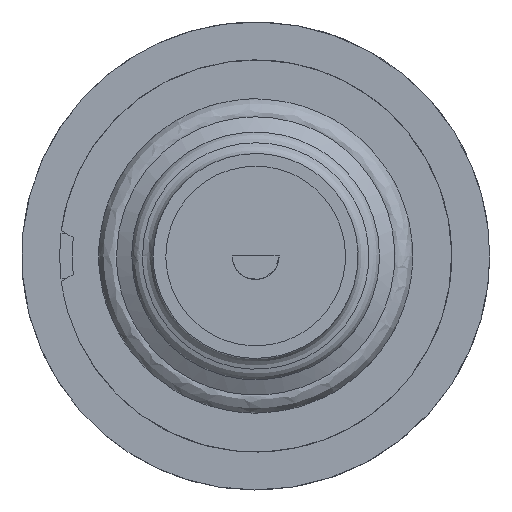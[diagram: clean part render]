
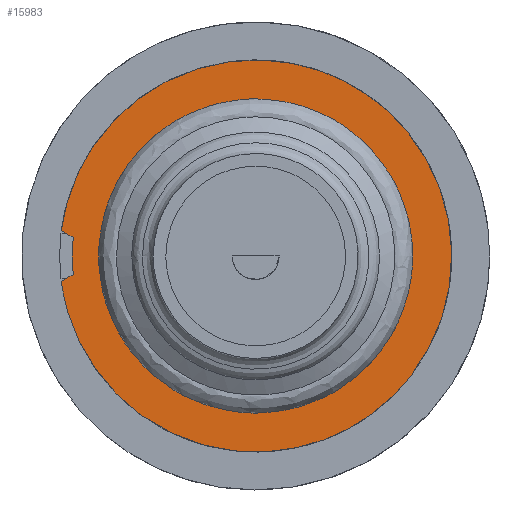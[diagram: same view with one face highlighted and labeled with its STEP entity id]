
A CAD part, front view. The second image highlights one B-rep face of the part: STEP entity #15983.
In plain terms, the highlighted free-form (B-spline) face has degree [1, 1] with [2, 2] control points.
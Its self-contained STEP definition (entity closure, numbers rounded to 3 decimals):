
#15793=CARTESIAN_POINT('V5',(-15.37,-5.0,2.0));
#15794=VERTEX_POINT('V5',#15793);
#15800=CARTESIAN_POINT('V4',(-15.37,-5.0,-2.0));
#15801=VERTEX_POINT('V4',#15800);
#15802=CARTESIAN_POINT('E4',(-15.37,-5.0,2.0));
#15803=CARTESIAN_POINT('E4',(-12.372,-5.0,
   25.041));
#15804=CARTESIAN_POINT('E4',(7.75,-5.0,
   13.423));
#15805=CARTESIAN_POINT('E4',(31.0,-5.0,0.));
#15806=CARTESIAN_POINT('E4',(7.75,-5.0,
   -13.423));
#15807=CARTESIAN_POINT('E4',(-12.372,-5.0,
   -25.041));
#15808=CARTESIAN_POINT('E4',(-15.37,-5.0,-2.0));
#15816=(BOUNDED_CURVE()B_SPLINE_CURVE(2,(#15802,#15803,#15804,
   #15805,#15806,#15807,#15808),.CIRCULAR_ARC.,.F.,.U.)
   B_SPLINE_CURVE_WITH_KNOTS((3,2,2,3),(1.291,
   17.898,35.796,52.403),
   .UNSPECIFIED.)CURVE()GEOMETRIC_REPRESENTATION_ITEM()
   RATIONAL_B_SPLINE_CURVE((0.933,0.536,
   1.0,0.5,1.0,0.536,0.933))
   REPRESENTATION_ITEM('E4'));
#15817=EDGE_CURVE('E4',#15794,#15801,#15816,.T.);
#15843=CARTESIAN_POINT('V3',(-14.427,-5.0,
   -1.455));
#15844=VERTEX_POINT('V3',#15843);
#15852=CARTESIAN_POINT('V6',(-14.427,-5.0,
   1.455));
#15853=VERTEX_POINT('V6',#15852);
#15854=CARTESIAN_POINT('E6',(-14.427,-5.0,
   1.455));
#15855=CARTESIAN_POINT('E6',(-14.574,-5.0,0.)
   );
#15856=CARTESIAN_POINT('E6',(-14.427,-5.0,
   -1.455));
#15864=(BOUNDED_CURVE()B_SPLINE_CURVE(2,(#15854,#15855,#15856),
   .CIRCULAR_ARC.,.F.,.U.)CURVE()GEOMETRIC_REPRESENTATION_ITEM()
   QUASI_UNIFORM_CURVE()RATIONAL_B_SPLINE_CURVE((1.0,
   0.995,1.0))REPRESENTATION_ITEM('E6'));
#15865=EDGE_CURVE('E6',#15853,#15844,#15864,.T.);
#15896=CARTESIAN_POINT('E5',(-15.37,-5.0,2.0));
#15897=CARTESIAN_POINT('E5',(-14.427,-5.0,
   1.455));
#15898=QUASI_UNIFORM_CURVE('E5',1,(#15896,#15897),.POLYLINE_FORM.,
   .F.,.U.);
#15899=EDGE_CURVE('E5',#15794,#15853,#15898,.T.);
#15941=CARTESIAN_POINT('E3',(-14.427,-5.0,
   -1.455));
#15942=CARTESIAN_POINT('E3',(-15.37,-5.0,-2.0));
#15943=QUASI_UNIFORM_CURVE('E3',1,(#15941,#15942),.POLYLINE_FORM.,
   .F.,.U.);
#15944=EDGE_CURVE('E3',#15844,#15801,#15943,.T.);
#15951=CARTESIAN_POINT('F2',(17.05,-5.0,
   -17.05));
#15952=CARTESIAN_POINT('F2',(17.05,-5.0,
   17.05));
#15953=CARTESIAN_POINT('F2',(-17.05,-5.0,
   -17.05));
#15954=CARTESIAN_POINT('F2',(-17.05,-5.0,
   17.05));
#15955=QUASI_UNIFORM_SURFACE('F2',1,1,((#15951,#15953),(#15952,
   #15954)),.PLANE_SURF.,.F.,.F.,.U.);
#15956=ORIENTED_EDGE('E3',*,*,#15944,.T.);
#15957=ORIENTED_EDGE('E4',*,*,#15817,.F.);
#15958=ORIENTED_EDGE('E5',*,*,#15899,.T.);
#15959=ORIENTED_EDGE('E6',*,*,#15865,.T.);
#15960=EDGE_LOOP('F2',(#15956,#15957,#15958,#15959));
#15961=FACE_OUTER_BOUND('F2',#15960,.T.);
#15962=CARTESIAN_POINT('V7',(11.11,-5.,
   0.0));
#15963=VERTEX_POINT('V7',#15962);
#15964=CARTESIAN_POINT('E7',(11.11,-5.,
   0.0));
#15965=CARTESIAN_POINT('E7',(11.11,-5.,
   19.243));
#15966=CARTESIAN_POINT('E7',(-5.555,-5.,
   9.622));
#15967=CARTESIAN_POINT('E7',(-22.22,-5.,
   0.));
#15968=CARTESIAN_POINT('E7',(-5.555,-5.,
   -9.622));
#15969=CARTESIAN_POINT('E7',(11.11,-5.,
   -19.243));
#15970=CARTESIAN_POINT('E7',(11.11,-5.,
   0.0));
#15978=(BOUNDED_CURVE()B_SPLINE_CURVE(2,(#15964,#15965,#15966,
   #15967,#15968,#15969,#15970),.CIRCULAR_ARC.,.T.,.U.)
   B_SPLINE_CURVE_WITH_KNOTS((3,2,2,3),(0.0,0.333,
   0.667,1.0),.UNSPECIFIED.)CURVE()
   GEOMETRIC_REPRESENTATION_ITEM()RATIONAL_B_SPLINE_CURVE((1.0,
   0.5,1.0,0.5,1.0,0.5,1.0)
   )REPRESENTATION_ITEM('E7'));
#15979=EDGE_CURVE('E7',#15963,#15963,#15978,.T.);
#15980=ORIENTED_EDGE('E7',*,*,#15979,.F.);
#15981=EDGE_LOOP('F2',(#15980));
#15982=FACE_BOUND('F2',#15981,.T.);
#15983=ADVANCED_FACE('F2',(#15961,#15982),#15955,.T.);
